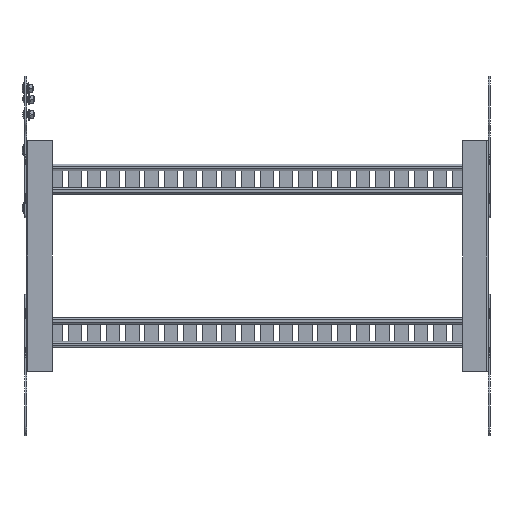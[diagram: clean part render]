
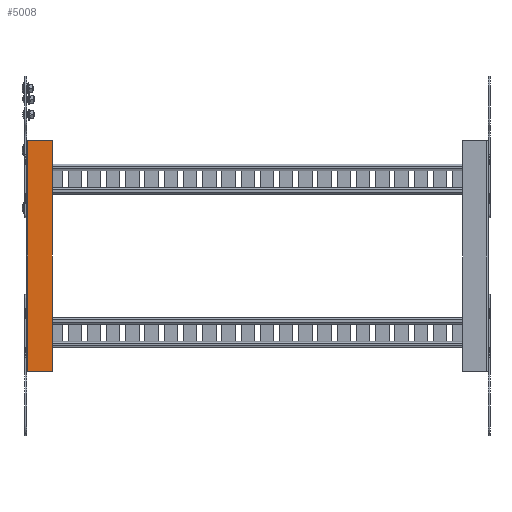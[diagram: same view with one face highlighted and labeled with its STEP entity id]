
A CAD part, front view. The second image highlights one B-rep face of the part: STEP entity #5008.
In plain terms, the highlighted planar face has unit normal (0, -1, 0).
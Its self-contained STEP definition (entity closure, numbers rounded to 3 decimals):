
#345 = CARTESIAN_POINT ( 'NONE',  ( 0., -1.5, -150. ) ) ;
#512 = LINE ( 'NONE', #10781, #26631 ) ;
#705 = DIRECTION ( 'NONE',  ( 1., 0., 0. ) ) ;
#917 = EDGE_LOOP ( 'NONE', ( #21747, #18944, #4188, #7317 ) ) ;
#958 = CARTESIAN_POINT ( 'NONE',  ( -31.5, -1.5, -150. ) ) ;
#2065 = VERTEX_POINT ( 'NONE', #10486 ) ;
#2339 = VERTEX_POINT ( 'NONE', #3908 ) ;
#2642 = FACE_OUTER_BOUND ( 'NONE', #917, .T. ) ;
#3219 = VECTOR ( 'NONE', #11123, 1000. ) ;
#3603 = LINE ( 'NONE', #345, #28176 ) ;
#3908 = CARTESIAN_POINT ( 'NONE',  ( 0., -1.5, 150. ) ) ;
#4188 = ORIENTED_EDGE ( 'NONE', *, *, #13484, .T. ) ;
#4635 = DIRECTION ( 'NONE',  ( 1., 0., 0. ) ) ;
#5008 = ADVANCED_FACE ( 'NONE', ( #2642 ), #24819, .T. ) ;
#7317 = ORIENTED_EDGE ( 'NONE', *, *, #31137, .T. ) ;
#7855 = DIRECTION ( 'NONE',  ( 0., 0., 1. ) ) ;
#8945 = EDGE_CURVE ( 'NONE', #2065, #2339, #17832, .T. ) ;
#9698 = CARTESIAN_POINT ( 'NONE',  ( 0., -1.5, -150. ) ) ;
#9980 = LINE ( 'NONE', #958, #3219 ) ;
#10486 = CARTESIAN_POINT ( 'NONE',  ( -31.5, -1.5, 150. ) ) ;
#10781 = CARTESIAN_POINT ( 'NONE',  ( 0., -1.5, -150. ) ) ;
#11123 = DIRECTION ( 'NONE',  ( 0., 0., 1. ) ) ;
#12186 = DIRECTION ( 'NONE',  ( 1., 0., 0. ) ) ;
#12442 = VERTEX_POINT ( 'NONE', #13976 ) ;
#13484 = EDGE_CURVE ( 'NONE', #12442, #19989, #512, .T. ) ;
#13976 = CARTESIAN_POINT ( 'NONE',  ( -31.5, -1.5, -150. ) ) ;
#17559 = AXIS2_PLACEMENT_3D ( 'NONE', #9698, #27368, #12186 ) ;
#17832 = LINE ( 'NONE', #22334, #31350 ) ;
#18944 = ORIENTED_EDGE ( 'NONE', *, *, #19170, .F. ) ;
#19170 = EDGE_CURVE ( 'NONE', #12442, #2065, #9980, .T. ) ;
#19989 = VERTEX_POINT ( 'NONE', #29768 ) ;
#21747 = ORIENTED_EDGE ( 'NONE', *, *, #8945, .F. ) ;
#22334 = CARTESIAN_POINT ( 'NONE',  ( 0., -1.5, 150. ) ) ;
#24819 = PLANE ( 'NONE',  #17559 ) ;
#26631 = VECTOR ( 'NONE', #705, 1000. ) ;
#27368 = DIRECTION ( 'NONE',  ( 0., -1., 0. ) ) ;
#28176 = VECTOR ( 'NONE', #7855, 1000. ) ;
#29768 = CARTESIAN_POINT ( 'NONE',  ( 0., -1.5, -150. ) ) ;
#31137 = EDGE_CURVE ( 'NONE', #19989, #2339, #3603, .T. ) ;
#31350 = VECTOR ( 'NONE', #4635, 1000. ) ;
